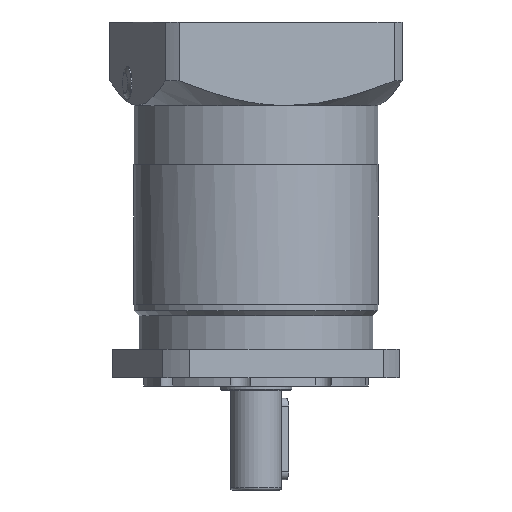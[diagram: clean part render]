
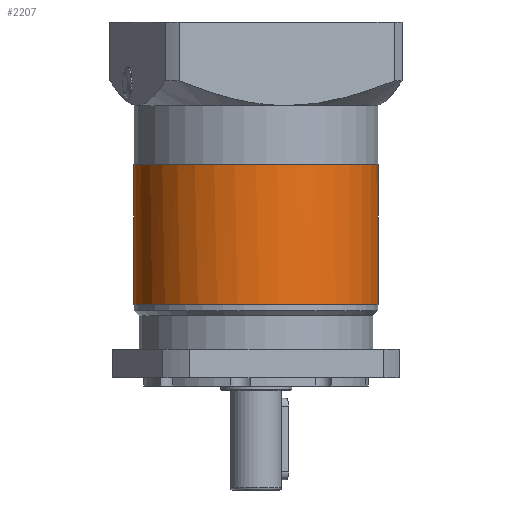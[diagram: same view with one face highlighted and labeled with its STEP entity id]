
A CAD part, front view. The second image highlights one B-rep face of the part: STEP entity #2207.
In plain terms, the highlighted cylindrical face has radius 60 mm (diameter 120 mm), a full revolution.
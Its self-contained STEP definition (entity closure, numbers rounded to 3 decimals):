
#1074=FACE_BOUND('',#4514,.T.);
#1075=FACE_BOUND('',#4515,.T.);
#2207=ADVANCED_FACE('',(#1074,#1075),#3209,.T.);
#3209=CYLINDRICAL_SURFACE('',#18776,60.);
#4514=EDGE_LOOP('',(#6310));
#4515=EDGE_LOOP('',(#6311));
#6310=ORIENTED_EDGE('',*,*,#13206,.T.);
#6311=ORIENTED_EDGE('',*,*,#13216,.T.);
#11260=VERTEX_POINT('',#27122);
#11270=VERTEX_POINT('',#27143);
#13206=EDGE_CURVE('',#11260,#11260,#17276,.T.);
#13216=EDGE_CURVE('',#11270,#11270,#17286,.T.);
#17276=CIRCLE('',#18763,60.);
#17286=CIRCLE('',#18774,60.);
#18763=AXIS2_PLACEMENT_3D('',#27121,#21608,#21609);
#18774=AXIS2_PLACEMENT_3D('',#27142,#21630,#21631);
#18776=AXIS2_PLACEMENT_3D('',#27145,#21634,#21635);
#21608=DIRECTION('',(0.,0.,1.));
#21609=DIRECTION('',(0.968,0.25,0.));
#21630=DIRECTION('',(0.,0.,-1.));
#21631=DIRECTION('',(1.,0.,0.));
#21634=DIRECTION('',(0.,0.,-1.));
#21635=DIRECTION('',(-0.968,-0.25,0.));
#27121=CARTESIAN_POINT('',(-107.015,121.46,40.));
#27122=CARTESIAN_POINT('',(-48.926,136.483,40.));
#27142=CARTESIAN_POINT('',(-107.015,121.46,108.5));
#27143=CARTESIAN_POINT('',(-47.015,121.46,108.5));
#27145=CARTESIAN_POINT('',(-107.015,121.46,78.));
